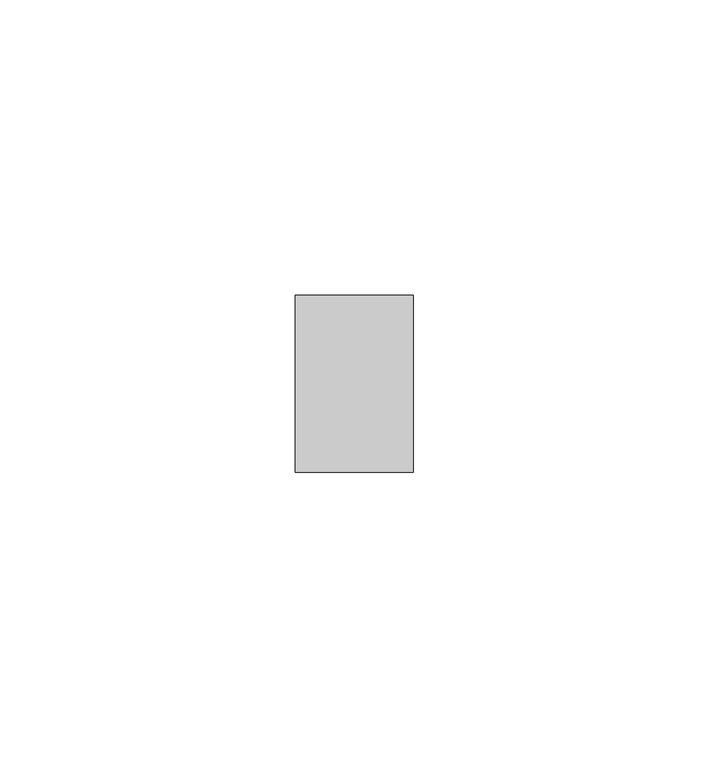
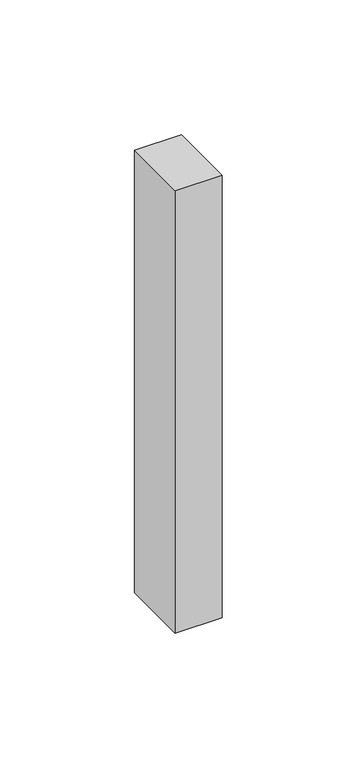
"""IFC4 building model written with IfcOpenShell, lengths in millimetres: member geometry, Прямоугольный импост : Квадрат 10 мм - Зазор между навесными плитами."""

from ifc_helpers import new_model, si_unit, frame, origin, place, context, project, spatial, polyline, outline, extrude, source, transform, mapped, element, save


def member_81a1d3e9(model_context):
    return source(origin(), model_context, "Body", "SweptSolid", [
        extrude(outline(polyline([(10.0, 15.0), (10.0, -15.0), (-10.0, -15.0), (-10.0, 15.0), (10.0, 15.0)])), frame((0.0, 0.0, -200.0), z_axis=(0.0, 0.0, 1.0), x_axis=(1.0, 0.0, 0.0)), (0.0, 0.0, 1.0), 200.0),
    ])


if __name__ == "__main__":
    model = new_model("IFC4")
    model_context = context("Model", 3, world=origin())
    ifc_project = project(units=[si_unit("LENGTHUNIT", "METRE", prefix="MILLI")], contexts=[model_context])
    site = spatial("IfcSite", under=ifc_project)
    building = spatial("IfcBuilding", under=site)
    placement = place(None, origin())
    member_shape = member_81a1d3e9(model_context)
    element("IfcMember", 1, ObjectType="Прямоугольный импост : Квадрат 10 мм - Зазор между навесными плитами", at=placement, inside=building, context=model_context, shape_type="MappedRepresentation", body=[
        mapped(member_shape, transform((0.0, 0.0, 0.0), x_axis=(1.0, 0.0, 0.0), y_axis=(0.0, 1.0, 0.0), z_axis=(0.0, 0.0, 1.0))),
    ])
    save(model, "model.ifc")
